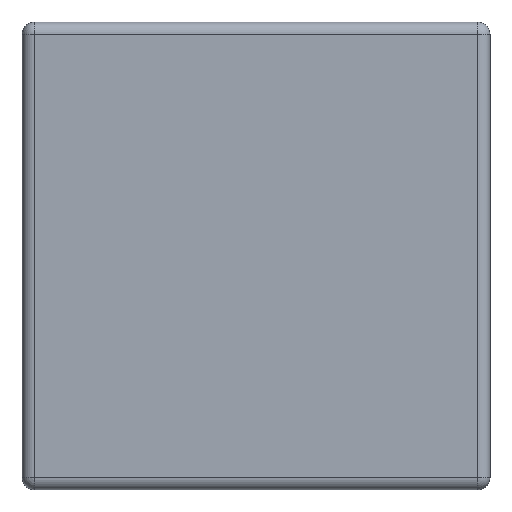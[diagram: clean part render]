
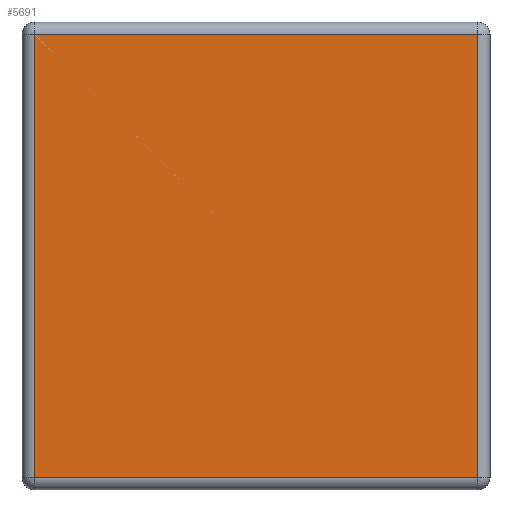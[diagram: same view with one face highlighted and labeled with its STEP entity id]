
A CAD part, front view. The second image highlights one B-rep face of the part: STEP entity #5691.
In plain terms, the highlighted planar face has unit normal (0, -1, 0).
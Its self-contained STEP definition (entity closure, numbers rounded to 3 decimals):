
#403 = ORIENTED_EDGE ( 'NONE', *, *, #8473, .T. ) ;
#526 = LINE ( 'NONE', #5859, #9784 ) ;
#669 = DIRECTION ( 'NONE',  ( -1., 0., 0. ) ) ;
#810 = DIRECTION ( 'NONE',  ( 0., -1., 0. ) ) ;
#1021 = DIRECTION ( 'NONE',  ( 0., 0., -1. ) ) ;
#1436 = DIRECTION ( 'NONE',  ( 0., 0., 1. ) ) ;
#1496 = CARTESIAN_POINT ( 'NONE',  ( 42.6, 0., 45. ) ) ;
#1854 = AXIS2_PLACEMENT_3D ( 'NONE', #5371, #810, #4462 ) ;
#2262 = VECTOR ( 'NONE', #1021, 1000. ) ;
#2349 = LINE ( 'NONE', #9671, #6707 ) ;
#2432 = FACE_OUTER_BOUND ( 'NONE', #8603, .T. ) ;
#2780 = CARTESIAN_POINT ( 'NONE',  ( 42.6, 0., 42.6 ) ) ;
#3849 = VERTEX_POINT ( 'NONE', #2780 ) ;
#4312 = CARTESIAN_POINT ( 'NONE',  ( -42.6, 0., -42.6 ) ) ;
#4462 = DIRECTION ( 'NONE',  ( 0., 0., -1. ) ) ;
#4632 = CARTESIAN_POINT ( 'NONE',  ( -42.6, 0., 0. ) ) ;
#5019 = VERTEX_POINT ( 'NONE', #4312 ) ;
#5141 = PLANE ( 'NONE',  #1854 ) ;
#5371 = CARTESIAN_POINT ( 'NONE',  ( 0., 0., 0. ) ) ;
#5691 = ADVANCED_FACE ( 'NONE', ( #2432 ), #5141, .T. ) ;
#5699 = VERTEX_POINT ( 'NONE', #8101 ) ;
#5859 = CARTESIAN_POINT ( 'NONE',  ( 0., 0., -42.6 ) ) ;
#5913 = EDGE_CURVE ( 'NONE', #11015, #5019, #8463, .T. ) ;
#6707 = VECTOR ( 'NONE', #669, 1000. ) ;
#7289 = ORIENTED_EDGE ( 'NONE', *, *, #9092, .T. ) ;
#7827 = DIRECTION ( 'NONE',  ( 1., 0., 0. ) ) ;
#8101 = CARTESIAN_POINT ( 'NONE',  ( 42.6, 0., -42.6 ) ) ;
#8313 = ORIENTED_EDGE ( 'NONE', *, *, #8445, .T. ) ;
#8445 = EDGE_CURVE ( 'NONE', #5699, #3849, #10522, .T. ) ;
#8463 = LINE ( 'NONE', #4632, #2262 ) ;
#8473 = EDGE_CURVE ( 'NONE', #3849, #11015, #2349, .T. ) ;
#8603 = EDGE_LOOP ( 'NONE', ( #7289, #8313, #403, #10204 ) ) ;
#9092 = EDGE_CURVE ( 'NONE', #5019, #5699, #526, .T. ) ;
#9671 = CARTESIAN_POINT ( 'NONE',  ( -45., 0., 42.6 ) ) ;
#9784 = VECTOR ( 'NONE', #7827, 1000. ) ;
#10204 = ORIENTED_EDGE ( 'NONE', *, *, #5913, .T. ) ;
#10394 = CARTESIAN_POINT ( 'NONE',  ( -42.6, 0., 42.6 ) ) ;
#10522 = LINE ( 'NONE', #1496, #11905 ) ;
#11015 = VERTEX_POINT ( 'NONE', #10394 ) ;
#11905 = VECTOR ( 'NONE', #1436, 1000. ) ;
